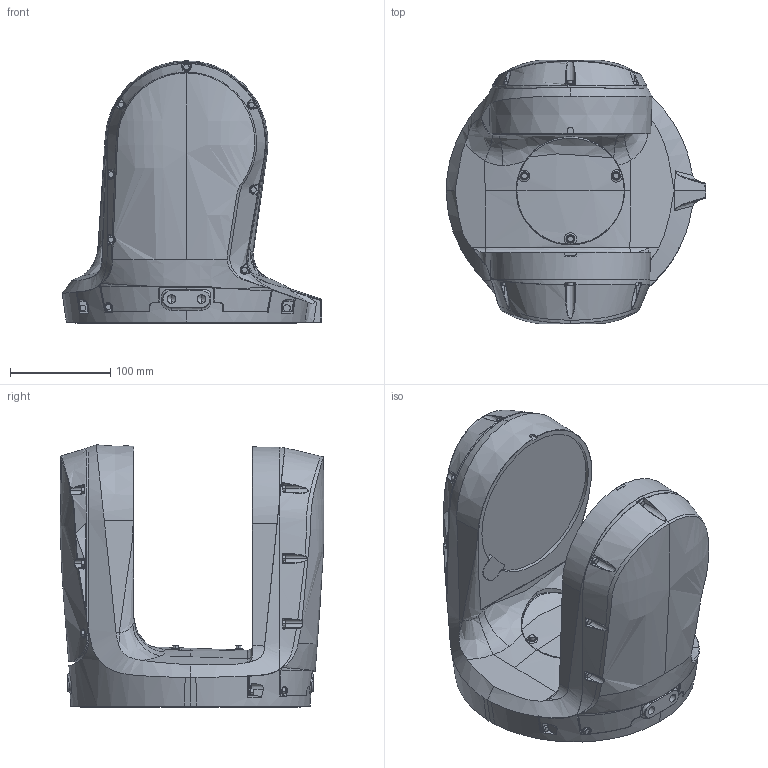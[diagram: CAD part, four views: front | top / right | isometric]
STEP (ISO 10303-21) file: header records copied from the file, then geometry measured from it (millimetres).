
FILE_DESCRIPTION (( 'STEP AP214' ), '1' );
FILE_NAME ('IRB1200H_7-705-90_IRC5_Link1_rev0.step', '2022-01-17T08:44:29', ( '' ), ( '' ), 'SwSTEP 2.0', 'SolidWorks 2020', '' );
FILE_SCHEMA (( 'AUTOMOTIVE_DESIGN' ));
Length unit declared in the file: millimetre
Products named in the file (1): IRB1200H_7-705-90_IRC5_Link1_rev0
Bounding box: 258.82 x 262.98 x 261.43 mm (x, y, z)
Volume: 6068604.9 mm3; surface area: 289087.8 mm2
Topology: 1 solids, 11 shells, 751 faces, 1864 edges, 1150 vertices
Faces by surface type: bspline 318, plane 190, cylinder 150, cone 52, torus 33, sphere 8
Entity records: 62511 total; most frequent: CARTESIAN_POINT 47389, ORIENTED_EDGE 3698, DIRECTION 2311, EDGE_CURVE 1849, VERTEX_POINT 1150, AXIS2_PLACEMENT_3D 950, B_SPLINE_CURVE_WITH_KNOTS 883, EDGE_LOOP 781
